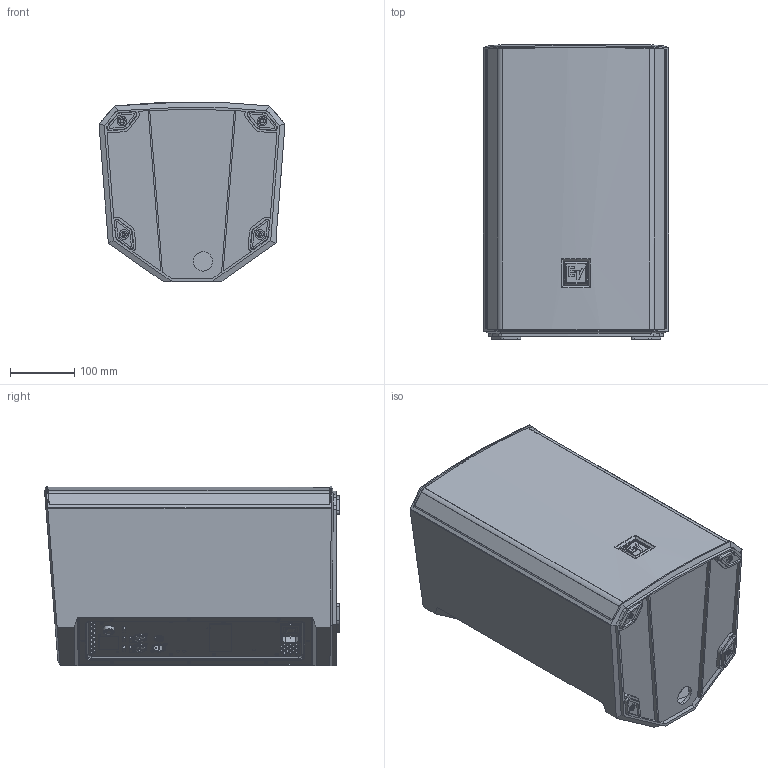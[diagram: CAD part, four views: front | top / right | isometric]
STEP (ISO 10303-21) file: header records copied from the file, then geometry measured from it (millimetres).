
FILE_DESCRIPTION (( 'STEP AP203' ), '1' );
FILE_NAME ('ZLX-8P-G2 3D CAD.STEP', '2023-04-04T07:40:18', ( '' ), ( '' ), 'SwSTEP 2.0', 'SolidWorks 2021', '' );
FILE_SCHEMA (( 'CONFIG_CONTROL_DESIGN' ));
Length unit declared in the file: millimetre
Products named in the file (17): ZLX-8P-G2 Display Glass; ZLX-8P-G2 Foot; ZLX-8P-G2 Enclosure_For Final Assembly - Without HF Baffle; ZLX-8P-G2 Amplifier Knob; ZLX-8P-G2 3D CAD; ZLX-8P-G2 Cord Receptacle and Power Switch; ZLX-8P-G2 Led; ZLX-8P-G2 Amplifier XLR Male; ZLX-8P-G2 Amplifier Panel; ZLX-8P-G2 Grille; ZLX-8P-G2 Nut; ZLX-8P-G2 Handle_insert; ZLX-8P-G2 Amplifier XLR Female; ZLX-8P-G2 EV Logo; ZLX-8P-G2 Enclosure; ZLX-8P-G2 Display
Assembly tree (20 placements, depth 3):
  ZLX-8P-G2 3D CAD
    ZLX-8P-G2 Enclosure_For Final Assembly - Without HF Baffle
      ZLX-8P-G2 Enclosure
      ZLX-8P-G2 Foot  x4
    ZLX-8P-G2 Display
    ZLX-8P-G2 Handle_insert
    ZLX-8P-G2 Amplifier Panel
      ZLX-8P-G2 Amplifier Panel
      ZLX-8P-G2 Amplifier Knob
      ZLX-8P-G2 Display Glass
      ZLX-8P-G2 Led
      ZLX-8P-G2 Amplifier XLR Male  x2
      ZLX-8P-G2 Amplifier XLR Female
      ZLX-8P-G2 Nut
      ZLX-8P-G2 Cord Receptacle and Power Switch
    ZLX-8P-G2 Grille
    ZLX-8P-G2 EV Logo
Bounding box: 289.87 x 459.55 x 280.44 mm (x, y, z)
Volume: 2428042 mm3; surface area: 1278346.1 mm2
Topology: 24 solids, 24 shells, 1654 faces, 4463 edges, 2921 vertices
Faces by surface type: plane 904, cylinder 603, cone 59, torus 44, bspline 36, sphere 8
Entity records: 50306 total; most frequent: CARTESIAN_POINT 11987, ORIENTED_EDGE 7672, DIRECTION 7468, EDGE_CURVE 3836, VERTEX_POINT 2504, VECTOR 2502, LINE 2502, AXIS2_PLACEMENT_3D 2483
